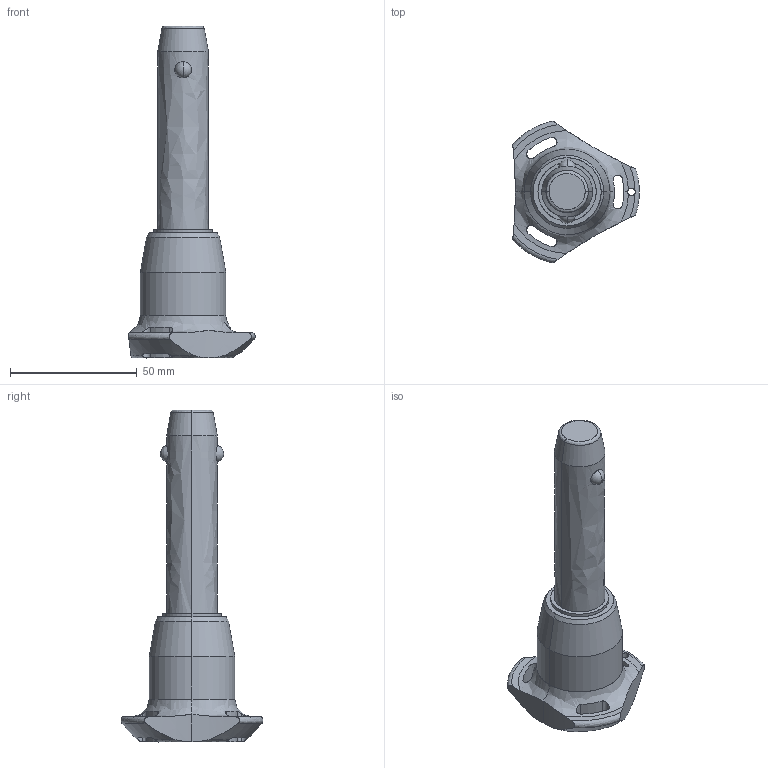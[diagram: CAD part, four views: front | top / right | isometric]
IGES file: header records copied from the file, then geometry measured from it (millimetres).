
Start section: SolidWorks IGES file using analytic representation for surfaces
Global section: file name: C:\Users\ianosborn\Desktop\QR1734_v2\QR1734_v2_20251113_IGES\QR1734.M20-060-S.igs; native system: SolidWorks 2019; preprocessor: SolidWorks 2019; author: IanOsborn; date: 251112.144021; units: millimetre
Bounding box: 50.04 x 56.02 x 131.2 mm (x, y, z)
Surface area: 14737.2 mm2 (no closed solid volume)
Topology: 0 solids, 0 shells, 65 faces, 1310 edges, 1306 vertices
Faces by surface type: revolution 50, bspline 15
